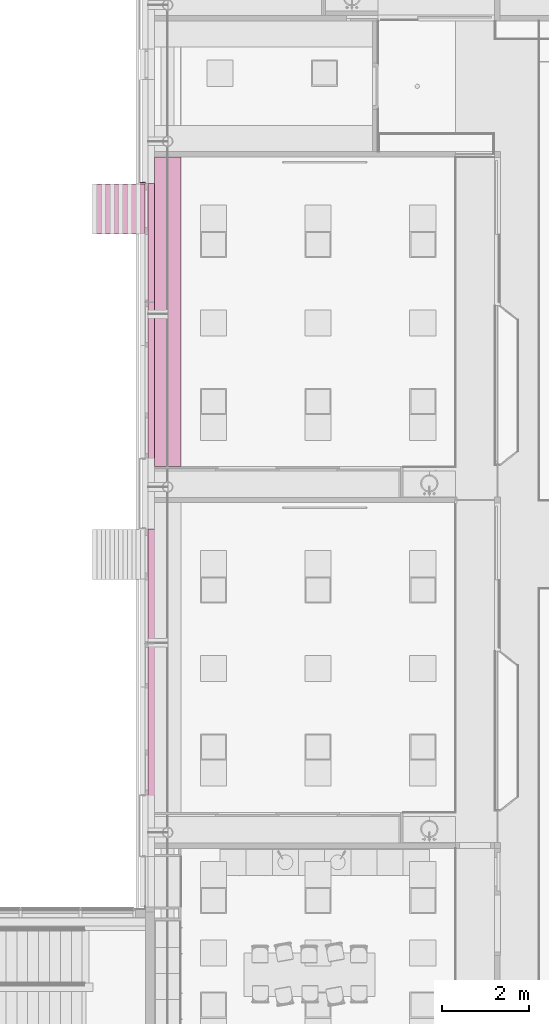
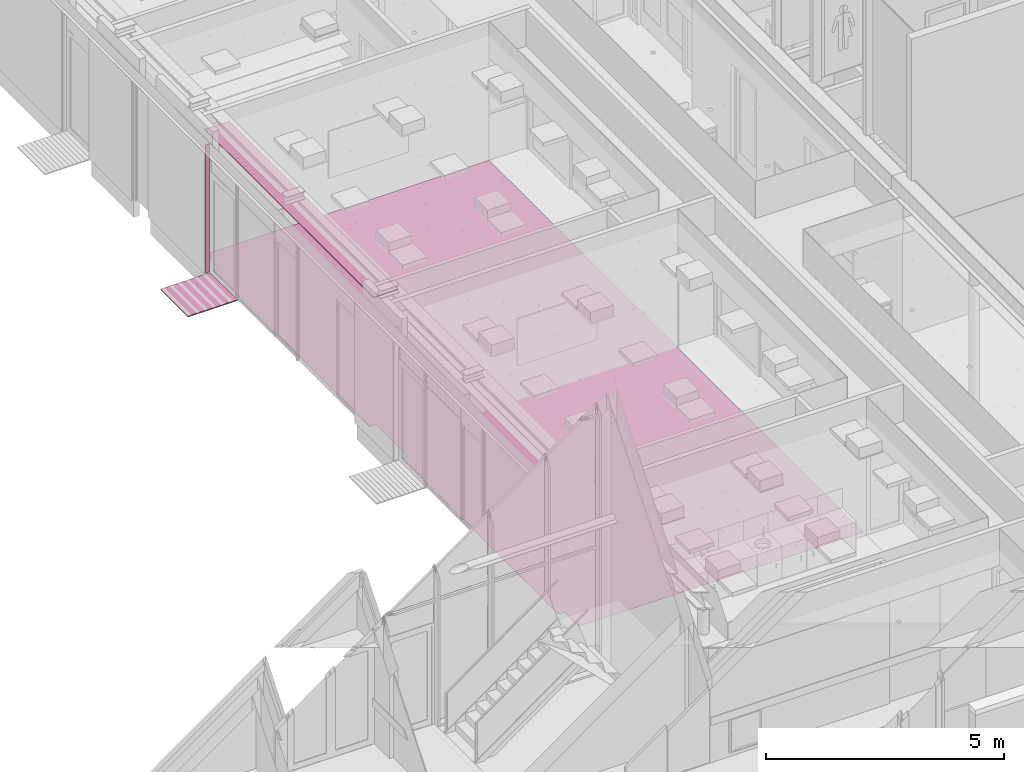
# One storey, part 323 of 347: 4 furnishings.
"""IFC2X3 building model written with IfcOpenShell, lengths in millimetres."""

from ifc_helpers import new_model, entity, si_unit, converted_unit, derived_unit, money_unit, direction, frame, origin_with_axes, place, context, subcontext, project, spatial, faceted_brep, material, type_object, element, save


model = new_model("IFC2X3")

# Units and contexts
model_context = context("Model", 3, precision=0.01, world=origin_with_axes(), true_north=direction((0.0, 1.0)))
plan_context = context("Plan", 3, precision=0.01, world=origin_with_axes(), true_north=direction((0.0, 1.0)))
body_context = subcontext(model_context, "Body", "Model", "MODEL_VIEW")
ifc_project = project(units=[si_unit("LENGTHUNIT", "METRE", prefix="MILLI"), si_unit("AREAUNIT", "SQUARE_METRE"), si_unit("VOLUMEUNIT", "CUBIC_METRE"), converted_unit("PLANEANGLEUNIT", "DEGREE", entity("IfcPlaneAngleMeasure", 0.0174532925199), si_unit("PLANEANGLEUNIT", "RADIAN"), dimensions=[0, 0, 0, 0, 0, 0, 0]), money_unit("EUR"), converted_unit("TIMEUNIT", "Year", entity("IfcTimeMeasure", 31556926.0), si_unit("TIMEUNIT", "SECOND"), dimensions=[0, 0, 1, 0, 0, 0, 0]), si_unit("MASSUNIT", "GRAM", prefix="KILO"), si_unit("THERMODYNAMICTEMPERATUREUNIT", "DEGREE_CELSIUS"), si_unit("LUMINOUSINTENSITYUNIT", "LUMEN"), si_unit("ENERGYUNIT", "JOULE", prefix="MEGA"), derived_unit("THERMALCONDUCTANCEUNIT", [(si_unit("POWERUNIT", "WATT"), 1), (si_unit("LENGTHUNIT", "METRE"), -1), (si_unit("THERMODYNAMICTEMPERATUREUNIT", "KELVIN"), -1)]), derived_unit("SPECIFICHEATCAPACITYUNIT", [(si_unit("ENERGYUNIT", "JOULE"), 1), (si_unit("MASSUNIT", "GRAM", prefix="KILO"), -1), (si_unit("THERMODYNAMICTEMPERATUREUNIT", "KELVIN"), -1)]), derived_unit("MASSDENSITYUNIT", [(si_unit("MASSUNIT", "GRAM", prefix="KILO"), 1), (si_unit("VOLUMEUNIT", "CUBIC_METRE"), -1)])], contexts=[model_context, plan_context])

# Site, building, storey
site_placement = place(None, origin_with_axes())
site = spatial("IfcSite", under=ifc_project, at=site_placement, Name="Site", CompositionType="ELEMENT")
building_placement = place(site_placement, origin_with_axes())
building = spatial("IfcBuilding", under=site, at=building_placement, Name="Naam gebouw", CompositionType="ELEMENT")
storey_placement = place(building_placement, origin_with_axes())
storey = spatial("IfcBuildingStorey", under=building, at=storey_placement, Name="begane grond", CompositionType="ELEMENT", Elevation=0.0)

# Furnishings
ifc_material_1 = material(Name="ALG - LICHTE SCHEIDINGSWAND")
furniture_type_1 = type_object("IfcFurnitureType", Name="44 koof plaf 50", AssemblyPlace="NOTDEFINED")
furnishing_1_placement = place(storey_placement, frame((24275.0, 28737.5, 3200.0), z_axis=(0.0, 0.0, 1.0), x_axis=(1.0, 0.0, 0.0)))
element("IfcFurnishingElement", 1, at=furnishing_1_placement, inside=storey, type_object=furniture_type_1, material=ifc_material_1, Name="72_75 vaste inrichting", ObjectType="SHELF", context=body_context, shape_type="Brep", body=[
    faceted_brep([(0.0, 0.0, 12.0), (0.0, 0.0, 0.0), (600.0, 0.0, 0.0), (600.0, 0.0, 12.0), (0.0, 7100.0, 12.0), (0.0, 7100.0, 0.0), (600.0, 7100.0, 0.0), (600.0, 7100.0, 12.0)], [[[0, 1, 2, 3]], [[4, 5, 1, 0]], [[2, 1, 5, 6]], [[3, 2, 6, 7]], [[4, 0, 3, 7]], [[7, 6, 5, 4]]]),
])
ifc_material_2 = material(Name="43 fresco Barbados 3858")
furniture_type_2 = type_object("IfcFurnitureType", Name="43 fresco Barbados 3858 2", AssemblyPlace="NOTDEFINED")
furnishing_2_placement = place(storey_placement, frame((24125.0, 20712.5001083, 0.0), z_axis=(0.0, 0.0, 1.0), x_axis=(1.0, 0.0, 0.0)))
element("IfcFurnishingElement", 2, at=furnishing_2_placement, inside=storey, type_object=furniture_type_2, material=ifc_material_2, Name="72_43 marmoleum", ObjectType="SHELF", context=body_context, shape_type="Brep", body=[
    faceted_brep([(0.0, 0.0, 2.0), (0.0, 0.0, 0.0), (150.000134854, 0.0, 0.0), (150.000134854, 0.0, 2.0), (0.0, 6600.00004125, 2.0), (0.0, 6600.00004125, 0.0), (150.000134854, 6600.00004125, 0.0), (150.000134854, 7924.99982342, 0.0), (0.0, 7924.99982342, 0.0), (0.0, 14524.9998647, 0.0), (150.000134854, 14524.9998647, 0.0), (150.000134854, 15124.9998917, 0.0), (7050.00018962, 15124.9998917, 0.0), (7050.00018962, -600.000027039, 0.0), (150.000134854, -600.000027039, 0.0), (150.000134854, -600.000027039, 2.0), (7050.00018962, -600.000027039, 2.0), (7050.00018962, 15124.9998917, 2.0), (150.000134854, 15124.9998917, 2.0), (150.000134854, 14524.9998647, 2.0), (0.0, 14524.9998647, 2.0), (0.0, 7924.99982342, 2.0), (150.000134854, 7924.99982342, 2.0), (150.000134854, 6600.00004125, 2.0)], [[[0, 1, 2, 3]], [[4, 5, 1, 0]], [[2, 1, 5, 6, 7, 8, 9, 10, 11, 12, 13, 14]], [[3, 2, 14, 15]], [[4, 0, 3, 15, 16, 17, 18, 19, 20, 21, 22, 23]], [[23, 6, 5, 4]], [[22, 7, 6, 23]], [[21, 8, 7, 22]], [[20, 9, 8, 21]], [[19, 10, 9, 20]], [[18, 11, 10, 19]], [[17, 12, 11, 18]], [[16, 13, 12, 17]], [[15, 14, 13, 16]]]),
])
ifc_material_3 = material(Name="24 Hout gevelbekleding Lariks master")
furniture_type_3 = type_object("IfcFurnitureType", Name="24 Hout gevelbekleding Lariks master 3280", AssemblyPlace="NOTDEFINED")
furnishing_3_placement = place(storey_placement, frame((23950.0000034, 35237.5, 0.0), z_axis=(0.0, 0.0, 1.0), x_axis=(1.0, 0.0, 0.0)))
element("IfcFurnishingElement", 3, at=furnishing_3_placement, inside=storey, type_object=furniture_type_3, material=ifc_material_3, Name="72_74 vaste inrichting", ObjectType="SHELF", context=body_context, shape_type="Brep", body=[
    faceted_brep([(0.0, 0.0, 3279.81793414), (0.0, 0.0, 0.0), (113.000123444, 0.0, 0.0), (113.000123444, 0.0, 3279.81793414), (1.66893094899e-05, 25.0, 3279.81793414), (1.66893094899e-05, 25.0, 0.0), (113.000123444, 25.0, 0.0), (113.000123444, 25.0, 3279.81793414)], [[[0, 1, 2, 3]], [[4, 5, 1, 0]], [[2, 1, 5, 6]], [[3, 2, 6, 7]], [[4, 0, 3, 7]], [[7, 6, 5, 4]]]),
])
ifc_material_4 = material(Name="Metaal - Aluminium")
furniture_type_4 = type_object("IfcFurnitureType", Name="Metaal - Aluminium 25", AssemblyPlace="NOTDEFINED")
furnishing_4_placement = place(storey_placement, frame((24053.0, 34074.5, -15.0), z_axis=(0.0, 0.0, 1.0), x_axis=(1.0, 0.0, 0.0)))
element("IfcFurnishingElement", 4, at=furnishing_4_placement, inside=storey, type_object=furniture_type_4, material=ifc_material_4, Name="72_43 schoonloop zone 1", ObjectType="SHELF", context=body_context, shape_type="Brep", body=[
    faceted_brep([(0.0, 0.0, 0.0), (0.0, 0.0, -25.0), (0.0, 1150.0, -25.0), (0.0, 1150.0, 0.0), (-1199.99997171, 0.0, 0.0), (-1199.99997171, 0.0, -25.0), (-1199.99997171, 1150.0, -25.0), (-1199.99997171, 1150.0, 0.0)], [[[0, 1, 2, 3]], [[4, 5, 1, 0]], [[2, 1, 5, 6]], [[3, 2, 6, 7]], [[4, 0, 3, 7]], [[7, 6, 5, 4]]]),
])

save(model, "model.ifc")
